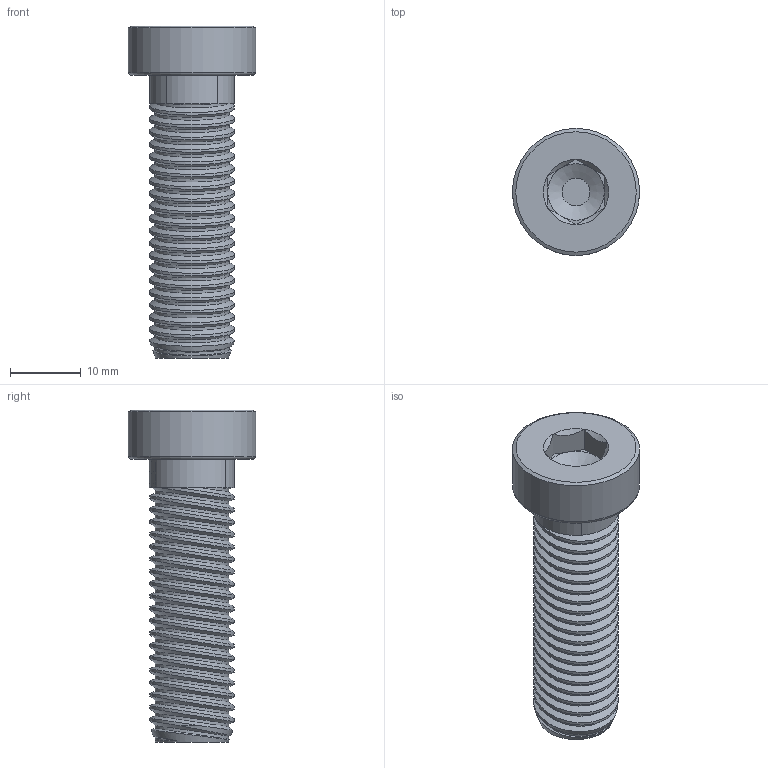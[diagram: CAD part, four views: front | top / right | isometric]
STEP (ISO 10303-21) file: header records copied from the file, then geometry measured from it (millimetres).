
FILE_DESCRIPTION(/* description */ ('M12x40 SHCS '),/* implementation_level */ '2;1');
FILE_NAME(/* name */ 'Z:\WEBSITE\DREAMWEAVER\MiniTec\Products\Screw_And_Nuts\Catalog_Pages\Cap_Screws\CAD\Step\21.1257 M12X40.stp',/* time_stamp */ '2018-07-02T08:47:55-04:00',/* author */ ('amoles'),/* organization */ (''),/* preprocessor_version */ 'ST-DEVELOPER v17',/* originating_system */ 'Autodesk Inventor 2018',/* authorisation */ '');
FILE_SCHEMA (('AUTOMOTIVE_DESIGN { 1 0 10303 214 3 1 1 }'));
Length unit declared in the file: millimetre
Products named in the file (1): 21.1257 M12X40
Bounding box: 18 x 18 x 47 mm (x, y, z)
Volume: 5537.1 mm3; surface area: 3093.1 mm2
Topology: 1 solids, 5 shells, 153 faces, 396 edges, 256 vertices
Faces by surface type: cone 61, cylinder 54, plane 19, bspline 18, torus 1
Full cylindrical faces by diameter (mm): 10.52 x20, 12 x18, 18 x1
Entity records: 6084 total; most frequent: CARTESIAN_POINT 2506, ORIENTED_EDGE 792, DIRECTION 689, EDGE_CURVE 396, AXIS2_PLACEMENT_3D 284, VERTEX_POINT 256, EDGE_LOOP 156, FACE_OUTER_BOUND 153
